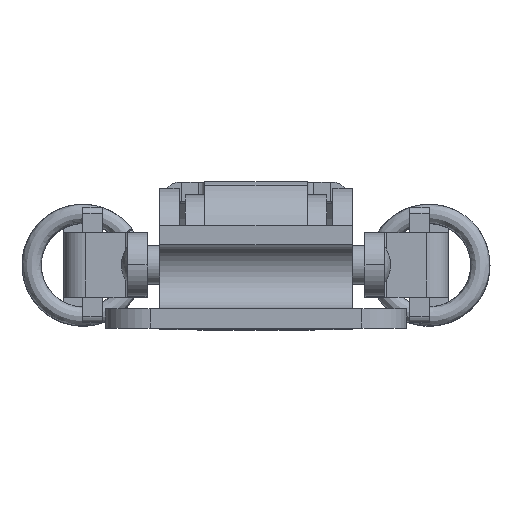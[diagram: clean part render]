
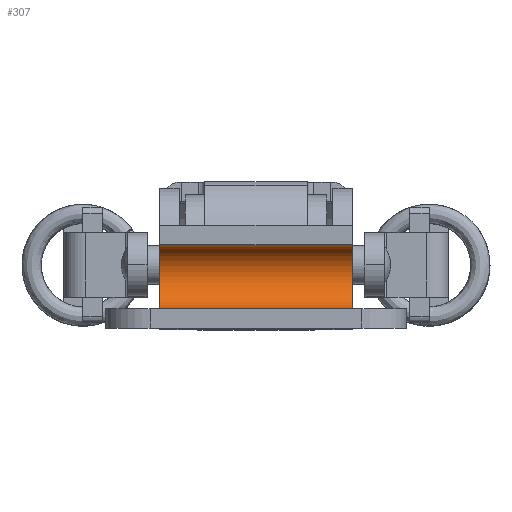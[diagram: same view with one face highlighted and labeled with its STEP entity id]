
A CAD part, top view. The second image highlights one B-rep face of the part: STEP entity #307.
In plain terms, the highlighted cylindrical face has radius 2.5 mm (diameter 5 mm), a partial arc.
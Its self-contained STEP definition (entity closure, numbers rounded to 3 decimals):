
#13 = AXIS2_PLACEMENT_3D ( 'NONE', #1005, #5954, #1718 ) ;
#107 = CARTESIAN_POINT ( 'NONE',  ( 19.25, 6.5, -11. ) ) ;
#307 = ADVANCED_FACE ( 'NONE', ( #2920 ), #6451, .F. ) ;
#543 = VERTEX_POINT ( 'NONE', #3710 ) ;
#1005 = CARTESIAN_POINT ( 'NONE',  ( 4.25, 4., -11. ) ) ;
#1329 = CARTESIAN_POINT ( 'NONE',  ( 23.5, 4., -11. ) ) ;
#1718 = DIRECTION ( 'NONE',  ( 0., 0., 1. ) ) ;
#1907 = ORIENTED_EDGE ( 'NONE', *, *, #6846, .T. ) ;
#1985 = CARTESIAN_POINT ( 'NONE',  ( 23.5, 1.5, -11. ) ) ;
#2160 = CARTESIAN_POINT ( 'NONE',  ( 19.25, 4., -11. ) ) ;
#2439 = AXIS2_PLACEMENT_3D ( 'NONE', #1329, #6275, #7697 ) ;
#2869 = DIRECTION ( 'NONE',  ( 0., 0., 1. ) ) ;
#2920 = FACE_OUTER_BOUND ( 'NONE', #3551, .T. ) ;
#3221 = ORIENTED_EDGE ( 'NONE', *, *, #3810, .T. ) ;
#3392 = ORIENTED_EDGE ( 'NONE', *, *, #6405, .F. ) ;
#3551 = EDGE_LOOP ( 'NONE', ( #3392, #4621, #3221, #1907 ) ) ;
#3685 = CARTESIAN_POINT ( 'NONE',  ( 4.25, 1.5, -11. ) ) ;
#3710 = CARTESIAN_POINT ( 'NONE',  ( 4.25, 6.5, -11. ) ) ;
#3810 = EDGE_CURVE ( 'NONE', #7078, #543, #7063, .T. ) ;
#3910 = CIRCLE ( 'NONE', #5212, 2.5 ) ;
#4042 = VECTOR ( 'NONE', #9035, 1000. ) ;
#4135 = CARTESIAN_POINT ( 'NONE',  ( 19.25, 1.5, -11. ) ) ;
#4167 = EDGE_CURVE ( 'NONE', #7078, #5983, #3910, .T. ) ;
#4621 = ORIENTED_EDGE ( 'NONE', *, *, #4167, .F. ) ;
#5178 = VECTOR ( 'NONE', #7899, 1000. ) ;
#5212 = AXIS2_PLACEMENT_3D ( 'NONE', #2160, #7089, #2869 ) ;
#5954 = DIRECTION ( 'NONE',  ( -1., 0., 0. ) ) ;
#5983 = VERTEX_POINT ( 'NONE', #4135 ) ;
#6158 = LINE ( 'NONE', #1985, #4042 ) ;
#6275 = DIRECTION ( 'NONE',  ( -1., 0., 0. ) ) ;
#6405 = EDGE_CURVE ( 'NONE', #5983, #7689, #6158, .T. ) ;
#6451 = CYLINDRICAL_SURFACE ( 'NONE', #2439, 2.5 ) ;
#6846 = EDGE_CURVE ( 'NONE', #543, #7689, #7474, .T. ) ;
#7063 = LINE ( 'NONE', #7184, #5178 ) ;
#7078 = VERTEX_POINT ( 'NONE', #107 ) ;
#7089 = DIRECTION ( 'NONE',  ( -1., 0., 0. ) ) ;
#7184 = CARTESIAN_POINT ( 'NONE',  ( 23.5, 6.5, -11. ) ) ;
#7474 = CIRCLE ( 'NONE', #13, 2.5 ) ;
#7689 = VERTEX_POINT ( 'NONE', #3685 ) ;
#7697 = DIRECTION ( 'NONE',  ( 0., 0., 1. ) ) ;
#7899 = DIRECTION ( 'NONE',  ( -1., 0., 0. ) ) ;
#9035 = DIRECTION ( 'NONE',  ( -1., 0., 0. ) ) ;
